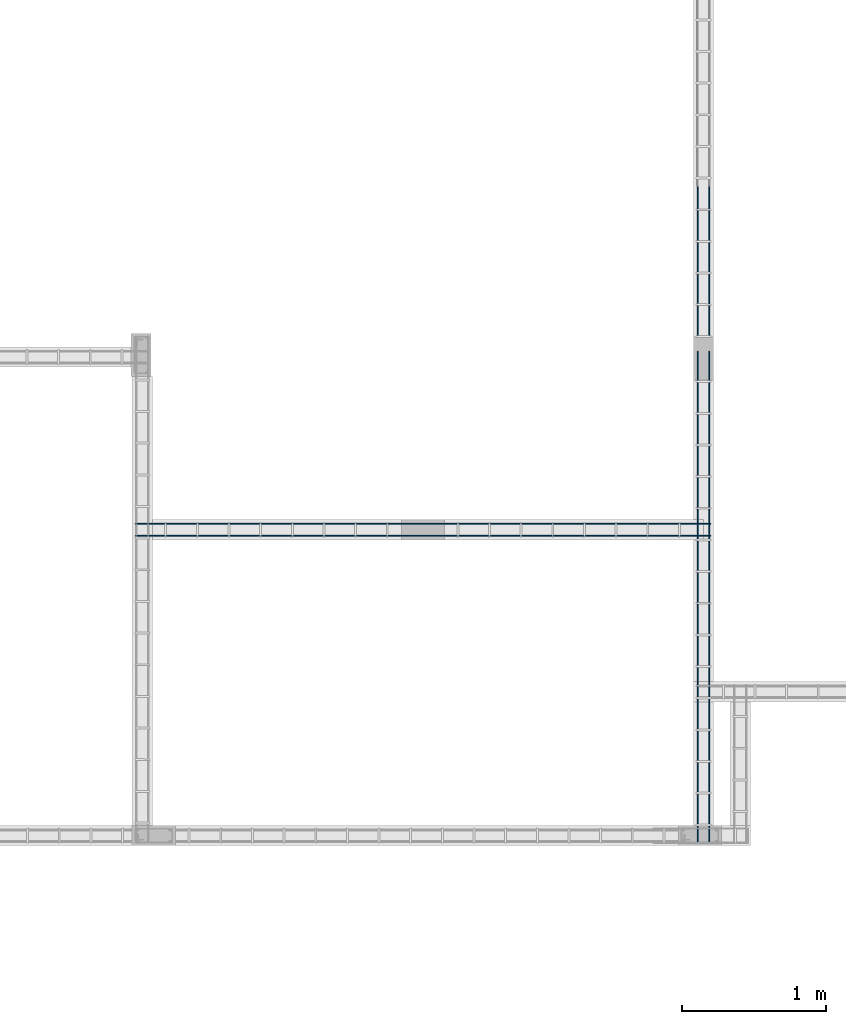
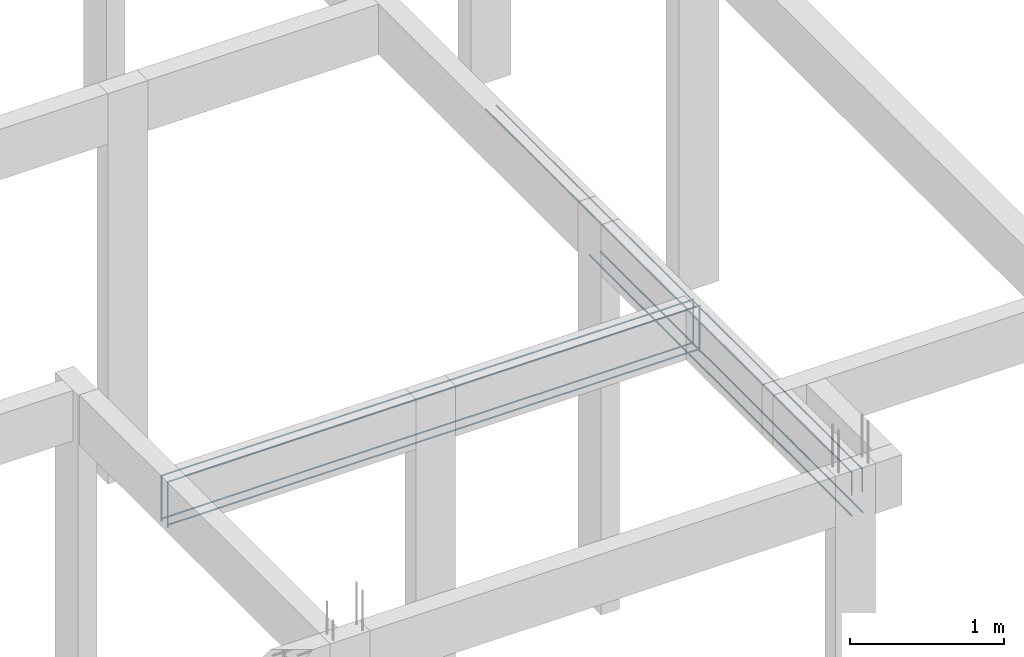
# One storey, part 48 of 236: 8 reinforcing bars.
"""IFC4 building model written with IfcOpenShell, lengths in centimetres."""

from ifc_helpers import new_model, entity, si_unit, derived_unit, frame, origin_with_axes, place, context, project, spatial, element, save


model = new_model("IFC4")

# Units and contexts
model_context = context("Model", 3, precision=1e-05, world=origin_with_axes(), identifier="Body")
ifc_project = project(units=[si_unit("LENGTHUNIT", "METRE", prefix="CENTI"), si_unit("VOLUMEUNIT", "CUBIC_METRE"), si_unit("AREAUNIT", "SQUARE_METRE"), si_unit("POWERUNIT", "WATT"), si_unit("LUMINOUSFLUXUNIT", "LUMEN"), si_unit("ELECTRICCURRENTUNIT", "AMPERE"), si_unit("PRESSUREUNIT", "PASCAL", prefix="KILO"), si_unit("MASSUNIT", "GRAM", prefix="KILO"), si_unit("PLANEANGLEUNIT", "RADIAN"), derived_unit("VOLUMETRICFLOWRATEUNIT", [(si_unit("LENGTHUNIT", "METRE"), 3), (si_unit("TIMEUNIT", "SECOND"), -1)])], contexts=[model_context])

# Site, building, storey
site_placement = place(None, frame((-4000.0, 0.0, 0.0), z_axis=(0.0, 0.0, 1.0), x_axis=(1.0, 0.0, 0.0)))
site = spatial("IfcSite", under=ifc_project, at=site_placement, Name="PADRÃO")
building_placement = place(site_placement, frame((0.0, 0.0, -14.0)))
building = spatial("IfcBuilding", under=site, at=building_placement, Name="CRECHE PRÉ-ESCOLA TIPO 2")
placement_1 = place(building_placement, origin_with_axes())
placement_2 = place(placement_1, frame((0.0, 0.0, 30.0), z_axis=(0.0, 0.0, 1.0), x_axis=(1.0, 0.0, 0.0)))
storey_placement = place(placement_2, frame((0.0, 0.0, 310.0), z_axis=(0.0, 0.0, 1.0), x_axis=(1.0, 0.0, 0.0)))
storey = spatial("IfcBuildingStorey", under=building, at=storey_placement, Name="TERREO", CompositionType="ELEMENT", Elevation=326.0)

# Reinforcing bars
for number, where, z_axis, x_axis, name in (
    (1, (2943.48, 623.48, -36.7), (0.0, 0.0, 1.0), (1.0, 0.0, 0.0), "V252 - Longitudinal inferior"),
    (2, (2943.48, 631.68, -36.7), (0.0, 0.0, 1.0), (1.0, 0.0, 0.0), "V252 - Longitudinal inferior"),
):
    element("IfcReinforcingBar", number, at=place(storey_placement, frame(where, z_axis=z_axis, x_axis=x_axis)), inside=storey, Name=name, BarLength=0.0, CrossSectionArea=5.0265482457e-05, NominalDiameter=0.8, PredefinedType="MAIN", context=model_context, shape_type="AdvancedSweptSolid", body=[
        entity("IfcSweptDiskSolid", entity("IfcCompositeCurve", [entity("IfcCompositeCurveSegment", "CONTINUOUS", True, entity("IfcPolyline", [entity("IfcCartesianPoint", [-200.02, 0.0, -0.4]), entity("IfcCartesianPoint", [200.02, 0.0, -0.4])]))], False), 0.4),
    ])
for number, where, z_axis, x_axis, name in (
    (3, (2943.48, 631.68, -2.49624973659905), (0.0, 0.0, 1.0), (1.0, 0.0, 0.0), "V252 - Longitudinal superior"),
    (4, (2943.48, 623.48, -2.49624973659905), (0.0, 0.0, 1.0), (1.0, 0.0, 0.0), "V252 - Longitudinal superior"),
):
    element("IfcReinforcingBar", number, at=place(storey_placement, frame(where, z_axis=z_axis, x_axis=x_axis)), inside=storey, Name=name, BarLength=0.0, CrossSectionArea=5.0265482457e-05, NominalDiameter=0.8, PredefinedType="MAIN", context=model_context, shape_type="AdvancedSweptSolid", body=[
        entity("IfcSweptDiskSolid", entity("IfcCompositeCurve", [entity("IfcCompositeCurveSegment", "CONTINUOUS", True, entity("IfcPolyline", [entity("IfcCartesianPoint", [-199.62, 0.0, -36.4037502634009]), entity("IfcCartesianPoint", [-199.62, 0.0, -0.403750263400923])])), entity("IfcCompositeCurveSegment", "CONTINUOUS", True, entity("IfcPolyline", [entity("IfcCartesianPoint", [-199.62, 0.0, -0.403750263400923]), entity("IfcCartesianPoint", [199.62, 0.0, -0.403750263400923])])), entity("IfcCompositeCurveSegment", "CONTINUOUS", True, entity("IfcPolyline", [entity("IfcCartesianPoint", [199.62, 0.0, -0.403750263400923]), entity("IfcCartesianPoint", [199.62, 0.0, -36.4037502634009])]))], False), 0.4),
    ])
for number, where, z_axis, x_axis, name in (
    (5, (3134.4, 580.795, -36.7), (0.0, 0.0, 1.0), (1.0, 0.0, 0.0), "V305 - Longitudinal inferior"),
    (6, (3142.6, 580.795, -36.7), (0.0, 0.0, 1.0), (1.0, 0.0, 0.0), "V305 - Longitudinal inferior"),
):
    element("IfcReinforcingBar", number, at=place(storey_placement, frame(where, z_axis=z_axis, x_axis=x_axis)), inside=storey, Name=name, BarLength=0.0, CrossSectionArea=5.0265482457e-05, NominalDiameter=0.8, PredefinedType="MAIN", context=model_context, shape_type="AdvancedSweptSolid", body=[
        entity("IfcSweptDiskSolid", entity("IfcCompositeCurve", [entity("IfcCompositeCurveSegment", "CONTINUOUS", True, entity("IfcPolyline", [entity("IfcCartesianPoint", [0.0, -170.785, -0.4]), entity("IfcCartesianPoint", [0.0, 170.785, -0.4])]))], False), 0.4),
    ])
for number, where, z_axis, x_axis, name in (
    (7, (3142.5, 648.292656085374, -2.49531217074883), (0.0, 0.0, 1.0), (1.0, 0.0, 0.0), "V305 - Longitudinal superior"),
    (8, (3134.5, 648.292656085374, -2.49531217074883), (0.0, 0.0, 1.0), (1.0, 0.0, 0.0), "V305 - Longitudinal superior"),
):
    element("IfcReinforcingBar", number, at=place(storey_placement, frame(where, z_axis=z_axis, x_axis=x_axis)), inside=storey, Name=name, BarLength=0.0, CrossSectionArea=7.853981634e-05, NominalDiameter=1.0, PredefinedType="MAIN", context=model_context, shape_type="AdvancedSweptSolid", body=[
        entity("IfcSweptDiskSolid", entity("IfcCompositeCurve", [entity("IfcCompositeCurveSegment", "CONTINUOUS", True, entity("IfcPolyline", [entity("IfcCartesianPoint", [0.0, -237.782656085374, -18.3428579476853]), entity("IfcCartesianPoint", [0.0, -237.782656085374, -0.504687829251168])])), entity("IfcCompositeCurveSegment", "CONTINUOUS", True, entity("IfcPolyline", [entity("IfcCartesianPoint", [0.0, -237.782656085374, -0.504687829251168]), entity("IfcCartesianPoint", [0.0, 238.287343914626, -0.504687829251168])]))], False), 0.5),
    ])

save(model, "model.ifc")
